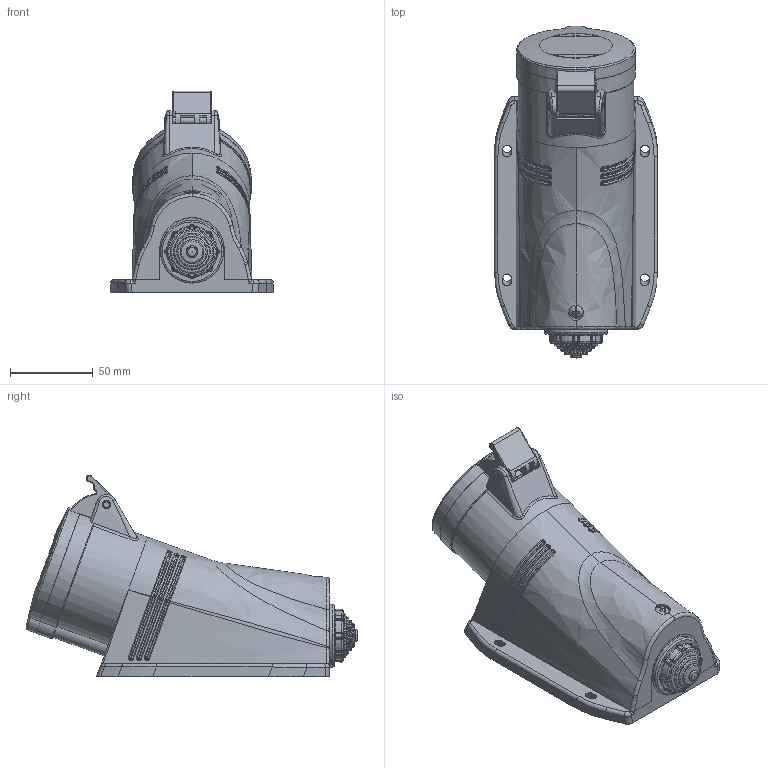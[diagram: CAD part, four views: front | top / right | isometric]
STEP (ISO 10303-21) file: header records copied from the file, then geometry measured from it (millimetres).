
FILE_DESCRIPTION(/* description */ (''),/* implementation_level */ '2;1');
FILE_NAME(/* name */ '4001814.stp',/* time_stamp */ '2019-02-28T13:20:49+01:00',/* author */ (''),/* organization */ (''),/* preprocessor_version */ 'ST-DEVELOPER v16.7',/* originating_system */ 'SIEMENS PLM Software NX 12.0',/* authorisation */ '');
FILE_SCHEMA (('AUTOMOTIVE_DESIGN { 1 0 10303 214 3 1 1 1 }'));
Products named in the file (1): bsom0E707C67n1hl
Bounding box: 98.8 x 201 x 122.23 mm (x, y, z)
Volume: 184669.4 mm3; surface area: 153206.7 mm2
Topology: 6 solids, 6 shells, 1882 faces, 4732 edges, 2876 vertices
Faces by surface type: bspline 626, plane 571, cylinder 414, cone 97, extrusion 71, sphere 55, torus 48
Full cylindrical faces by diameter (mm): 2.5 x1, 3.5 x1, 4 x3, 4.2 x2, 4.3 x2, 5 x1, 7.1 x1, 9 x1, 9.1 x1, 30 x1, 30.35 x1, 31.998 x1, 32.5 x1, 38 x1, 51.2 x1
Entity records: 162230 total; most frequent: CARTESIAN_POINT 122597, ORIENTED_EDGE 9162, DIRECTION 6527, EDGE_CURVE 4581, VERTEX_POINT 2842, AXIS2_PLACEMENT_3D 2433, EDGE_LOOP 2044, ADVANCED_FACE 1882
